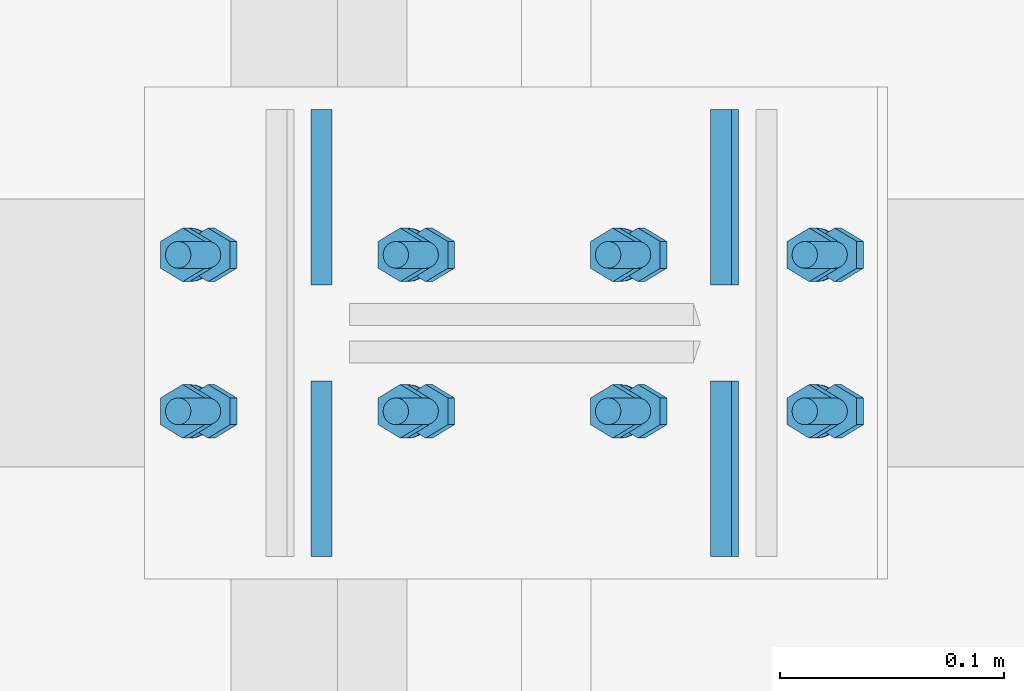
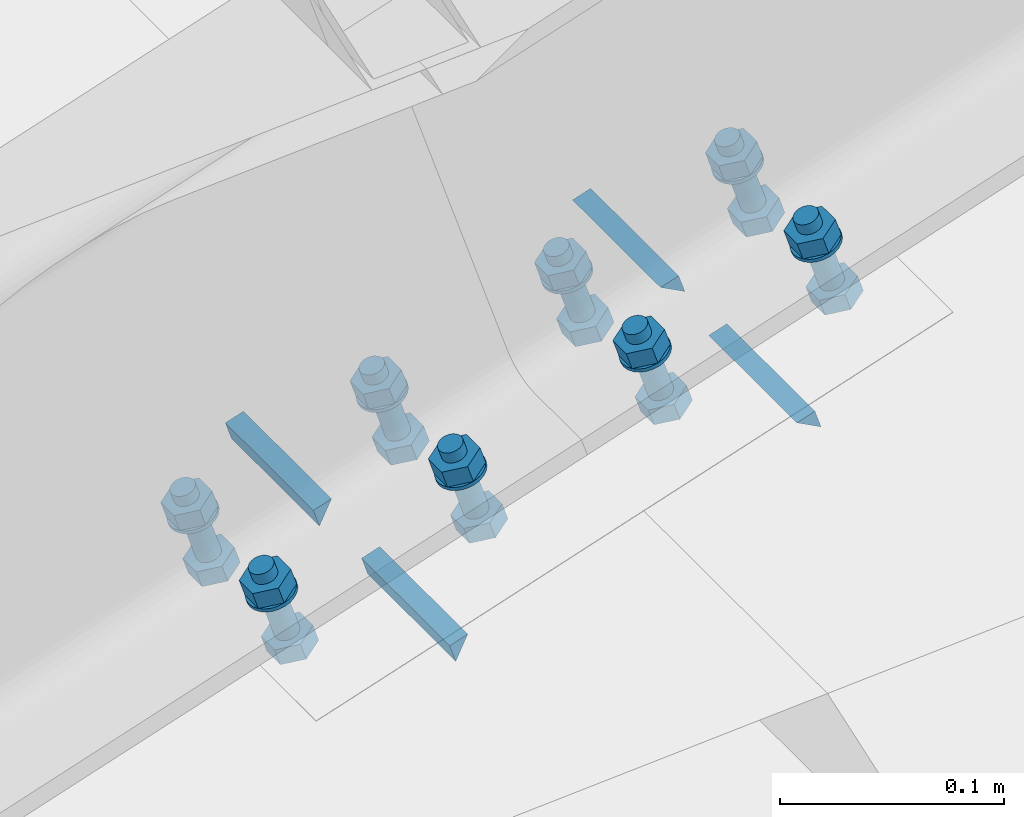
# One storey, part 28 of 53: 32 mechanical fasteners, 8 fasteners.
"""IFC4 building model written with IfcOpenShell, lengths in metres."""

from ifc_helpers import new_model, si_unit, frame, origin_with_axes, place, context, project, spatial, polyline, outline, extrude, type_object, element, save


model = new_model("IFC4")

# Units and contexts
model_context = context("Model", 3, precision=1e-05, world=origin_with_axes())
ifc_project = project(units=[si_unit("LENGTHUNIT", "METRE"), si_unit("AREAUNIT", "SQUARE_METRE"), si_unit("VOLUMEUNIT", "CUBIC_METRE"), si_unit("MASSUNIT", "GRAM", prefix="KILO"), si_unit("TIMEUNIT", "SECOND"), si_unit("PLANEANGLEUNIT", "RADIAN"), si_unit("SOLIDANGLEUNIT", "STERADIAN"), si_unit("THERMODYNAMICTEMPERATUREUNIT", "DEGREE_CELSIUS")], contexts=[model_context])

# Site, building, storey
placement_1 = place(None, origin_with_axes())
site = spatial("IfcSite", under=ifc_project, at=placement_1, Name="Italia", CompositionType="ELEMENT")
building = spatial("IfcBuilding", under=site, at=placement_1, Name="Capannone", CompositionType="ELEMENT")
storey_placement = place(None, frame((0.0, 0.0, 5.550000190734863), z_axis=(0.0, 0.0, 1.0), x_axis=(1.0, 0.0, 0.0)))
storey = spatial("IfcBuildingStorey", under=building, at=storey_placement, Name="Storey 1", CompositionType="ELEMENT", Elevation=5.550000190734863)

# Fasteners
fastener_type_1 = type_object("IfcFastenerType", Name="Collegamenti 0101_0001 0103_0003 0105_0005 0107_0007 0109_0009 0111_0011", PredefinedType="WELD")
placement_2 = place(placement_1, origin_with_axes())
fastener_1_placement = place(placement_2, origin_with_axes())
element("IfcFastener", 1, at=fastener_1_placement, inside=storey, type_object=fastener_type_1, Name="Collegamenti 0101_0001 0103_0003 0105_0005 0107_0007 0109_0009 0111_0011", context=model_context, shape_type="SweptSolid", body=[
    extrude(outline(polyline([(0.0, 0.0), (-0.00619942, -0.0127454), (-0.00937507, -0.00308037), (0.0, 0.0)])), frame((-0.0846885, 6.10005, 5.50644), z_axis=(0.0, -1.0, 0.0), x_axis=(1.0, 0.0, 0.0)), (0.0, 0.0, 1.0), 0.0785999),
])
fastener_type_2 = type_object("IfcFastenerType", Name="Collegamenti 0101_0001 0103_0003 0105_0005 0107_0007 0109_0009 0111_0011", PredefinedType="WELD")
fastener_2_placement = place(placement_2, origin_with_axes())
element("IfcFastener", 2, at=fastener_2_placement, inside=storey, type_object=fastener_type_2, Name="Collegamenti 0101_0001 0103_0003 0105_0005 0107_0007 0109_0009 0111_0011", context=model_context, shape_type="SweptSolid", body=[
    extrude(outline(polyline([(0.0, 0.0), (-0.0125507, -0.00658464), (-0.00937507, 0.00308037), (0.0, 0.0)])), frame((0.0846564, 6.02145, 5.56208), z_axis=(0.0, 1.0, 0.0), x_axis=(-1.0, 0.0, 0.0)), (0.0, 0.0, 1.0), 0.0785999),
])
fastener_type_3 = type_object("IfcFastenerType", Name="Collegamenti 0101_0001 0103_0003 0105_0005 0107_0007 0109_0009 0111_0011", PredefinedType="WELD")
fastener_3_placement = place(placement_2, origin_with_axes())
element("IfcFastener", 3, at=fastener_3_placement, inside=storey, type_object=fastener_type_3, Name="Collegamenti 0101_0001 0103_0003 0105_0005 0107_0007 0109_0009 0111_0011", context=model_context, shape_type="SweptSolid", body=[
    extrude(outline(polyline([(0.0, 0.0), (-0.0125507, -0.00658464), (-0.00937507, 0.00308037), (0.0, 0.0)])), frame((0.0846564, 5.89995, 5.56208), z_axis=(0.0, 1.0, 0.0), x_axis=(-1.0, 0.0, 0.0)), (0.0, 0.0, 1.0), 0.0785999),
])
fastener_type_4 = type_object("IfcFastenerType", Name="Collegamenti 0101_0001 0103_0003 0105_0005 0107_0007 0109_0009 0111_0011", PredefinedType="WELD")
fastener_4_placement = place(placement_2, origin_with_axes())
element("IfcFastener", 4, at=fastener_4_placement, inside=storey, type_object=fastener_type_4, Name="Collegamenti 0101_0001 0103_0003 0105_0005 0107_0007 0109_0009 0111_0011", context=model_context, shape_type="SweptSolid", body=[
    extrude(outline(polyline([(0.0, 0.0), (-0.00619942, -0.0127454), (-0.00937507, -0.00308037), (0.0, 0.0)])), frame((-0.0846885, 5.97855, 5.50644), z_axis=(0.0, -1.0, 0.0), x_axis=(1.0, 0.0, 0.0)), (0.0, 0.0, 1.0), 0.0785999),
])
fastener_type_5 = type_object("IfcFastenerType", Name="Collegamenti 0101_0001 0103_0003 0105_0005 0107_0007 0109_0009 0111_0011", PredefinedType="WELD")
fastener_5_placement = place(placement_2, origin_with_axes())
element("IfcFastener", 5, at=fastener_5_placement, inside=storey, type_object=fastener_type_5, Name="Collegamenti 0101_0001 0103_0003 0105_0005 0107_0007 0109_0009 0111_0011", context=model_context, shape_type="SweptSolid", body=[
    extrude(outline(polyline([(0.0, 0.0), (-0.00619942, -0.0127454), (-0.00937507, -0.00308037), (0.0, 0.0)])), frame((-0.0846885, 6.10005, 5.50644), z_axis=(0.0, -1.0, 0.0), x_axis=(1.0, 0.0, 0.0)), (0.0, 0.0, 1.0), 0.0785999),
])
fastener_type_6 = type_object("IfcFastenerType", Name="Collegamenti 0101_0001 0103_0003 0105_0005 0107_0007 0109_0009 0111_0011", PredefinedType="WELD")
fastener_6_placement = place(placement_2, origin_with_axes())
element("IfcFastener", 6, at=fastener_6_placement, inside=storey, type_object=fastener_type_6, Name="Collegamenti 0101_0001 0103_0003 0105_0005 0107_0007 0109_0009 0111_0011", context=model_context, shape_type="SweptSolid", body=[
    extrude(outline(polyline([(0.0, 0.0), (-0.0125507, -0.00658464), (-0.00937507, 0.00308037), (0.0, 0.0)])), frame((0.0846564, 6.02145, 5.56208), z_axis=(0.0, 1.0, 0.0), x_axis=(-1.0, 0.0, 0.0)), (0.0, 0.0, 1.0), 0.0785999),
])
fastener_type_7 = type_object("IfcFastenerType", Name="Collegamenti 0101_0001 0103_0003 0105_0005 0107_0007 0109_0009 0111_0011", PredefinedType="WELD")
fastener_7_placement = place(placement_2, origin_with_axes())
element("IfcFastener", 7, at=fastener_7_placement, inside=storey, type_object=fastener_type_7, Name="Collegamenti 0101_0001 0103_0003 0105_0005 0107_0007 0109_0009 0111_0011", context=model_context, shape_type="SweptSolid", body=[
    extrude(outline(polyline([(0.0, 0.0), (-0.0125507, -0.00658464), (-0.00937507, 0.00308037), (0.0, 0.0)])), frame((0.0846564, 5.89995, 5.56208), z_axis=(0.0, 1.0, 0.0), x_axis=(-1.0, 0.0, 0.0)), (0.0, 0.0, 1.0), 0.0785999),
])
fastener_type_8 = type_object("IfcFastenerType", Name="Collegamenti 0101_0001 0103_0003 0105_0005 0107_0007 0109_0009 0111_0011", PredefinedType="WELD")
fastener_8_placement = place(placement_2, origin_with_axes())
element("IfcFastener", 8, at=fastener_8_placement, inside=storey, type_object=fastener_type_8, Name="Collegamenti 0101_0001 0103_0003 0105_0005 0107_0007 0109_0009 0111_0011", context=model_context, shape_type="SweptSolid", body=[
    extrude(outline(polyline([(0.0, 0.0), (-0.00619942, -0.0127454), (-0.00937507, -0.00308037), (0.0, 0.0)])), frame((-0.0846885, 5.97855, 5.50644), z_axis=(0.0, -1.0, 0.0), x_axis=(1.0, 0.0, 0.0)), (0.0, 0.0, 1.0), 0.0785999),
])

# Mechanical fasteners
mechanical_fastener_type_1 = type_object("IfcMechanicalFastenerType", Name="Collegamenti 0101_0001 0103_0003 0105_0005 0107_0007 0109_0009 0111_0011", PredefinedType="BOLT")
mechanical_fastener_1_placement = place(placement_2, origin_with_axes())
element("IfcMechanicalFastener", 9, at=mechanical_fastener_1_placement, inside=storey, type_object=mechanical_fastener_type_1, Name="Collegamenti 0101_0001 0103_0003 0105_0005 0107_0007 0109_0009 0111_0011", NominalDiameter=0.012, context=model_context, shape_type="SweptSolid", body=[
    extrude(outline(polyline([(0.0, 0.0), (0.0120001, 0.0), (0.0180001, -0.0103923), (0.0120001, -0.0207845), (0.0, -0.0207845), (-0.00600004, -0.0103923), (0.0, 0.0)])), frame((-0.130325, 6.029, 5.49139), z_axis=(0.312164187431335, 0.0, -0.95002818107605), x_axis=(0.0, 1.0, 0.0)), (0.0, 0.0, 1.0), 0.0095997),
])
mechanical_fastener_type_2 = type_object("IfcMechanicalFastenerType", Name="Collegamenti 0101_0001 0103_0003 0105_0005 0107_0007 0109_0009 0111_0011", PredefinedType="BOLT")
mechanical_fastener_2_placement = place(placement_2, origin_with_axes())
element("IfcMechanicalFastener", 10, at=mechanical_fastener_2_placement, inside=storey, type_object=mechanical_fastener_type_2, Name="Collegamenti 0101_0001 0103_0003 0105_0005 0107_0007 0109_0009 0111_0011", NominalDiameter=0.012, context=model_context, shape_type="SweptSolid", body=[
    extrude(outline(polyline([(0.0, 0.0), (-0.000204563, -0.00155306), (-0.000803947, -0.00300002), (-0.00175762, -0.00424254), (-0.00300026, -0.00519633), (-0.00444698, -0.0057956), (-0.00600004, -0.00600004), (-0.0075531, -0.0057956), (-0.00899982, -0.00519633), (-0.0102425, -0.00424254), (-0.0111961, -0.00300002), (-0.0117955, -0.00155306), (-0.0120001, 0.0), (-0.0117955, 0.00155294), (-0.0111961, 0.00300002), (-0.0102425, 0.00424254), (-0.00899982, 0.00519621), (-0.0075531, 0.00579548), (-0.00600004, 0.00600004), (-0.00444698, 0.00579548), (-0.00300026, 0.00519621), (-0.00175762, 0.00424254), (-0.000803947, 0.00300002), (-0.000204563, 0.00155294), (0.0, 0.0)])), frame((-0.153558, 6.041, 5.52881), z_axis=(0.312153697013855, 0.0, -0.950031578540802), x_axis=(0.0, 1.0, 0.0)), (0.0, 0.0, 1.0), 0.0428),
])
mechanical_fastener_type_3 = type_object("IfcMechanicalFastenerType", Name="Collegamenti 0101_0001 0103_0003 0105_0005 0107_0007 0109_0009 0111_0011", PredefinedType="BOLT")
mechanical_fastener_3_placement = place(placement_2, origin_with_axes())
element("IfcMechanicalFastener", 11, at=mechanical_fastener_3_placement, inside=storey, type_object=mechanical_fastener_type_3, Name="Collegamenti 0101_0001 0103_0003 0105_0005 0107_0007 0109_0009 0111_0011", NominalDiameter=0.012, context=model_context, shape_type="SweptSolid", body=[
    extrude(outline(polyline([(0.0, 0.0), (0.0120001, 0.0), (0.0180001, -0.0103924), (0.0120001, -0.0207846), (0.0, -0.0207846), (-0.00600004, -0.0103924), (0.0, 0.0)])), frame((-0.141687, 6.029, 5.52597), z_axis=(0.312164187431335, 0.0, -0.95002818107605), x_axis=(0.0, 1.0, 0.0)), (0.0, 0.0, 1.0), 0.0095997),
])
mechanical_fastener_type_4 = type_object("IfcMechanicalFastenerType", Name="Collegamenti 0101_0001 0103_0003 0105_0005 0107_0007 0109_0009 0111_0011", PredefinedType="BOLT")
mechanical_fastener_4_placement = place(placement_2, origin_with_axes())
element("IfcMechanicalFastener", 12, at=mechanical_fastener_4_placement, inside=storey, type_object=mechanical_fastener_type_4, Name="Collegamenti 0101_0001 0103_0003 0105_0005 0107_0007 0109_0009 0111_0011", NominalDiameter=0.024, context=model_context, shape_type="SweptSolid", body=[
    extrude(outline(polyline([(0.0, 0.0), (-0.000409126, -0.00310576), (-0.00160789, -0.00599992), (-0.00351477, -0.0084852), (-0.00600004, -0.0103922), (-0.00889444, -0.0115911), (-0.0120001, -0.0119998), (-0.0151057, -0.0115911), (-0.0180001, -0.0103922), (-0.0204854, -0.0084852), (-0.0223923, -0.00599992), (-0.023591, -0.00310576), (-0.0240002, 0.0), (-0.023591, 0.003106), (-0.0223923, 0.00600016), (-0.0204854, 0.00848532), (-0.0180001, 0.0103924), (-0.0151057, 0.0115913), (-0.0120001, 0.0120001), (-0.00889444, 0.0115913), (-0.00600004, 0.0103924), (-0.00351477, 0.00848532), (-0.00160789, 0.00600016), (-0.000409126, 0.003106), (0.0, 0.0)])), frame((-0.148563, 6.047, 5.51361), z_axis=(0.312059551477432, 0.0, -0.95006251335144), x_axis=(0.0, 1.0, 0.0)), (0.0, 0.0, 1.0), 0.00200058),
])
mechanical_fastener_type_5 = type_object("IfcMechanicalFastenerType", Name="Collegamenti 0101_0001 0103_0003 0105_0005 0107_0007 0109_0009 0111_0011", PredefinedType="BOLT")
mechanical_fastener_5_placement = place(placement_2, origin_with_axes())
element("IfcMechanicalFastener", 13, at=mechanical_fastener_5_placement, inside=storey, type_object=mechanical_fastener_type_5, Name="Collegamenti 0101_0001 0103_0003 0105_0005 0107_0007 0109_0009 0111_0011", NominalDiameter=0.012, context=model_context, shape_type="SweptSolid", body=[
    extrude(outline(polyline([(0.0, 0.0), (0.0120001, 0.0), (0.0180001, -0.0103923), (0.0120001, -0.0207845), (0.0, -0.0207845), (-0.00600004, -0.0103923), (0.0, 0.0)])), frame((-0.130325, 5.959, 5.49139), z_axis=(0.312164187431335, 0.0, -0.95002818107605), x_axis=(0.0, 1.0, 0.0)), (0.0, 0.0, 1.0), 0.0095997),
])
mechanical_fastener_type_6 = type_object("IfcMechanicalFastenerType", Name="Collegamenti 0101_0001 0103_0003 0105_0005 0107_0007 0109_0009 0111_0011", PredefinedType="BOLT")
mechanical_fastener_6_placement = place(placement_2, origin_with_axes())
element("IfcMechanicalFastener", 14, at=mechanical_fastener_6_placement, inside=storey, type_object=mechanical_fastener_type_6, Name="Collegamenti 0101_0001 0103_0003 0105_0005 0107_0007 0109_0009 0111_0011", NominalDiameter=0.012, context=model_context, shape_type="SweptSolid", body=[
    extrude(outline(polyline([(0.0, 0.0), (-0.000204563, -0.00155306), (-0.000803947, -0.00300002), (-0.00175762, -0.00424254), (-0.00300026, -0.00519633), (-0.00444698, -0.0057956), (-0.00600004, -0.00600004), (-0.0075531, -0.0057956), (-0.00899982, -0.00519633), (-0.0102425, -0.00424254), (-0.0111961, -0.00300002), (-0.0117955, -0.00155306), (-0.0120001, 0.0), (-0.0117955, 0.00155294), (-0.0111961, 0.00300002), (-0.0102425, 0.00424254), (-0.00899982, 0.00519621), (-0.0075531, 0.00579548), (-0.00600004, 0.00600004), (-0.00444698, 0.00579548), (-0.00300026, 0.00519621), (-0.00175762, 0.00424254), (-0.000803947, 0.00300002), (-0.000204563, 0.00155294), (0.0, 0.0)])), frame((-0.153558, 5.971, 5.52881), z_axis=(0.312153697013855, 0.0, -0.950031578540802), x_axis=(0.0, 1.0, 0.0)), (0.0, 0.0, 1.0), 0.0428),
])
mechanical_fastener_type_7 = type_object("IfcMechanicalFastenerType", Name="Collegamenti 0101_0001 0103_0003 0105_0005 0107_0007 0109_0009 0111_0011", PredefinedType="BOLT")
mechanical_fastener_7_placement = place(placement_2, origin_with_axes())
element("IfcMechanicalFastener", 15, at=mechanical_fastener_7_placement, inside=storey, type_object=mechanical_fastener_type_7, Name="Collegamenti 0101_0001 0103_0003 0105_0005 0107_0007 0109_0009 0111_0011", NominalDiameter=0.012, context=model_context, shape_type="SweptSolid", body=[
    extrude(outline(polyline([(0.0, 0.0), (0.0120001, 0.0), (0.0180001, -0.0103924), (0.0120001, -0.0207846), (0.0, -0.0207846), (-0.00600004, -0.0103924), (0.0, 0.0)])), frame((-0.141687, 5.959, 5.52597), z_axis=(0.312164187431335, 0.0, -0.95002818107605), x_axis=(0.0, 1.0, 0.0)), (0.0, 0.0, 1.0), 0.0095997),
])
mechanical_fastener_type_8 = type_object("IfcMechanicalFastenerType", Name="Collegamenti 0101_0001 0103_0003 0105_0005 0107_0007 0109_0009 0111_0011", PredefinedType="BOLT")
mechanical_fastener_8_placement = place(placement_2, origin_with_axes())
element("IfcMechanicalFastener", 16, at=mechanical_fastener_8_placement, inside=storey, type_object=mechanical_fastener_type_8, Name="Collegamenti 0101_0001 0103_0003 0105_0005 0107_0007 0109_0009 0111_0011", NominalDiameter=0.024, context=model_context, shape_type="SweptSolid", body=[
    extrude(outline(polyline([(0.0, 0.0), (-0.000409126, -0.00310576), (-0.00160789, -0.00599992), (-0.00351477, -0.0084852), (-0.00600004, -0.0103922), (-0.00889444, -0.0115911), (-0.0120001, -0.0119998), (-0.0151057, -0.0115911), (-0.0180001, -0.0103922), (-0.0204854, -0.0084852), (-0.0223923, -0.00599992), (-0.023591, -0.00310576), (-0.0240002, 0.0), (-0.023591, 0.003106), (-0.0223923, 0.00600016), (-0.0204854, 0.00848532), (-0.0180001, 0.0103924), (-0.0151057, 0.0115913), (-0.0120001, 0.0120001), (-0.00889444, 0.0115913), (-0.00600004, 0.0103924), (-0.00351477, 0.00848532), (-0.00160789, 0.00600016), (-0.000409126, 0.003106), (0.0, 0.0)])), frame((-0.148563, 5.977, 5.51361), z_axis=(0.312059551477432, 0.0, -0.95006251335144), x_axis=(0.0, 1.0, 0.0)), (0.0, 0.0, 1.0), 0.00200058),
])
mechanical_fastener_type_9 = type_object("IfcMechanicalFastenerType", Name="Collegamenti 0101_0001 0103_0003 0105_0005 0107_0007 0109_0009 0111_0011", PredefinedType="BOLT")
mechanical_fastener_9_placement = place(placement_2, origin_with_axes())
element("IfcMechanicalFastener", 17, at=mechanical_fastener_9_placement, inside=storey, type_object=mechanical_fastener_type_9, Name="Collegamenti 0101_0001 0103_0003 0105_0005 0107_0007 0109_0009 0111_0011", NominalDiameter=0.012, context=model_context, shape_type="SweptSolid", body=[
    extrude(outline(polyline([(0.0, 0.0), (0.0120001, 0.0), (0.0180001, -0.0103924), (0.0120001, -0.0207846), (0.0, -0.0207846), (-0.00600004, -0.0103924), (0.0, 0.0)])), frame((0.0620569, 6.029, 5.5546), z_axis=(0.312162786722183, 0.0, -0.950028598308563), x_axis=(0.0, 1.0, 0.0)), (0.0, 0.0, 1.0), 0.0095997),
])
mechanical_fastener_type_10 = type_object("IfcMechanicalFastenerType", Name="Collegamenti 0101_0001 0103_0003 0105_0005 0107_0007 0109_0009 0111_0011", PredefinedType="BOLT")
mechanical_fastener_10_placement = place(placement_2, origin_with_axes())
element("IfcMechanicalFastener", 18, at=mechanical_fastener_10_placement, inside=storey, type_object=mechanical_fastener_type_10, Name="Collegamenti 0101_0001 0103_0003 0105_0005 0107_0007 0109_0009 0111_0011", NominalDiameter=0.012, context=model_context, shape_type="SweptSolid", body=[
    extrude(outline(polyline([(0.0, 0.0), (-0.000204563, -0.00155294), (-0.000803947, -0.0029999), (-0.00175762, -0.00424266), (-0.00300026, -0.00519621), (-0.00444698, -0.00579548), (-0.00600004, -0.00600004), (-0.0075531, -0.00579548), (-0.00899982, -0.00519621), (-0.0102425, -0.00424266), (-0.0111961, -0.0029999), (-0.0117955, -0.00155294), (-0.0120001, 0.0), (-0.0117955, 0.00155306), (-0.0111961, 0.00300002), (-0.0102425, 0.00424254), (-0.00899982, 0.00519621), (-0.0075531, 0.0057956), (-0.00600004, 0.00600004), (-0.00444698, 0.0057956), (-0.00300026, 0.00519621), (-0.00175762, 0.00424254), (-0.000803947, 0.00300002), (-0.000204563, 0.00155306), (0.0, 0.0)])), frame((0.0388237, 6.041, 5.59202), z_axis=(0.312154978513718, 0.0, -0.950031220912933), x_axis=(0.0, 1.0, 0.0)), (0.0, 0.0, 1.0), 0.0428),
])
mechanical_fastener_type_11 = type_object("IfcMechanicalFastenerType", Name="Collegamenti 0101_0001 0103_0003 0105_0005 0107_0007 0109_0009 0111_0011", PredefinedType="BOLT")
mechanical_fastener_11_placement = place(placement_2, origin_with_axes())
element("IfcMechanicalFastener", 19, at=mechanical_fastener_11_placement, inside=storey, type_object=mechanical_fastener_type_11, Name="Collegamenti 0101_0001 0103_0003 0105_0005 0107_0007 0109_0009 0111_0011", NominalDiameter=0.012, context=model_context, shape_type="SweptSolid", body=[
    extrude(outline(polyline([(0.0, 0.0), (0.0120001, 0.0), (0.0180001, -0.0103922), (0.0120001, -0.0207845), (0.0, -0.0207845), (-0.00600004, -0.0103922), (0.0, 0.0)])), frame((0.0506946, 6.029, 5.58918), z_axis=(0.312163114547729, 0.0, -0.950028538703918), x_axis=(0.0, 1.0, 0.0)), (0.0, 0.0, 1.0), 0.0095997),
])
mechanical_fastener_type_12 = type_object("IfcMechanicalFastenerType", Name="Collegamenti 0101_0001 0103_0003 0105_0005 0107_0007 0109_0009 0111_0011", PredefinedType="BOLT")
mechanical_fastener_12_placement = place(placement_2, origin_with_axes())
element("IfcMechanicalFastener", 20, at=mechanical_fastener_12_placement, inside=storey, type_object=mechanical_fastener_type_12, Name="Collegamenti 0101_0001 0103_0003 0105_0005 0107_0007 0109_0009 0111_0011", NominalDiameter=0.024, context=model_context, shape_type="SweptSolid", body=[
    extrude(outline(polyline([(0.0, 0.0), (-0.000409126, -0.003106), (-0.00160789, -0.00600004), (-0.00351477, -0.00848544), (-0.00600004, -0.0103923), (-0.00889444, -0.0115912), (-0.0120001, -0.0120001), (-0.0151057, -0.0115912), (-0.0180001, -0.0103923), (-0.0204854, -0.00848544), (-0.0223923, -0.00600004), (-0.023591, -0.003106), (-0.0240002, 0.0), (-0.023591, 0.00310588), (-0.0223923, 0.0059998), (-0.0204854, 0.0084852), (-0.0180001, 0.0103922), (-0.0151057, 0.011591), (-0.0120001, 0.012), (-0.00889444, 0.011591), (-0.00600004, 0.0103922), (-0.00351477, 0.0084852), (-0.00160789, 0.0059998), (-0.000409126, 0.00310588), (0.0, 0.0)])), frame((0.0438182, 6.047, 5.57682), z_axis=(0.312204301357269, 0.0, -0.950015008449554), x_axis=(0.0, 1.0, 0.0)), (0.0, 0.0, 1.0), 0.00199967),
])
mechanical_fastener_type_13 = type_object("IfcMechanicalFastenerType", Name="Collegamenti 0101_0001 0103_0003 0105_0005 0107_0007 0109_0009 0111_0011", PredefinedType="BOLT")
mechanical_fastener_13_placement = place(placement_2, origin_with_axes())
element("IfcMechanicalFastener", 21, at=mechanical_fastener_13_placement, inside=storey, type_object=mechanical_fastener_type_13, Name="Collegamenti 0101_0001 0103_0003 0105_0005 0107_0007 0109_0009 0111_0011", NominalDiameter=0.012, context=model_context, shape_type="SweptSolid", body=[
    extrude(outline(polyline([(0.0, 0.0), (0.0120001, 0.0), (0.0180001, -0.0103924), (0.0120001, -0.0207846), (0.0, -0.0207846), (-0.00600004, -0.0103924), (0.0, 0.0)])), frame((0.0620569, 5.959, 5.5546), z_axis=(0.312162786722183, 0.0, -0.950028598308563), x_axis=(0.0, 1.0, 0.0)), (0.0, 0.0, 1.0), 0.0095997),
])
mechanical_fastener_type_14 = type_object("IfcMechanicalFastenerType", Name="Collegamenti 0101_0001 0103_0003 0105_0005 0107_0007 0109_0009 0111_0011", PredefinedType="BOLT")
mechanical_fastener_14_placement = place(placement_2, origin_with_axes())
element("IfcMechanicalFastener", 22, at=mechanical_fastener_14_placement, inside=storey, type_object=mechanical_fastener_type_14, Name="Collegamenti 0101_0001 0103_0003 0105_0005 0107_0007 0109_0009 0111_0011", NominalDiameter=0.012, context=model_context, shape_type="SweptSolid", body=[
    extrude(outline(polyline([(0.0, 0.0), (-0.000204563, -0.00155294), (-0.000803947, -0.0029999), (-0.00175762, -0.00424266), (-0.00300026, -0.00519621), (-0.00444698, -0.00579548), (-0.00600004, -0.00600004), (-0.0075531, -0.00579548), (-0.00899982, -0.00519621), (-0.0102425, -0.00424266), (-0.0111961, -0.0029999), (-0.0117955, -0.00155294), (-0.0120001, 0.0), (-0.0117955, 0.00155306), (-0.0111961, 0.00300002), (-0.0102425, 0.00424254), (-0.00899982, 0.00519621), (-0.0075531, 0.0057956), (-0.00600004, 0.00600004), (-0.00444698, 0.0057956), (-0.00300026, 0.00519621), (-0.00175762, 0.00424254), (-0.000803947, 0.00300002), (-0.000204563, 0.00155306), (0.0, 0.0)])), frame((0.0388237, 5.971, 5.59202), z_axis=(0.312154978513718, 0.0, -0.950031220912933), x_axis=(0.0, 1.0, 0.0)), (0.0, 0.0, 1.0), 0.0428),
])
mechanical_fastener_type_15 = type_object("IfcMechanicalFastenerType", Name="Collegamenti 0101_0001 0103_0003 0105_0005 0107_0007 0109_0009 0111_0011", PredefinedType="BOLT")
mechanical_fastener_15_placement = place(placement_2, origin_with_axes())
element("IfcMechanicalFastener", 23, at=mechanical_fastener_15_placement, inside=storey, type_object=mechanical_fastener_type_15, Name="Collegamenti 0101_0001 0103_0003 0105_0005 0107_0007 0109_0009 0111_0011", NominalDiameter=0.012, context=model_context, shape_type="SweptSolid", body=[
    extrude(outline(polyline([(0.0, 0.0), (0.0120001, 0.0), (0.0180001, -0.0103922), (0.0120001, -0.0207845), (0.0, -0.0207845), (-0.00600004, -0.0103922), (0.0, 0.0)])), frame((0.0506946, 5.959, 5.58918), z_axis=(0.312163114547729, 0.0, -0.950028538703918), x_axis=(0.0, 1.0, 0.0)), (0.0, 0.0, 1.0), 0.0095997),
])
mechanical_fastener_type_16 = type_object("IfcMechanicalFastenerType", Name="Collegamenti 0101_0001 0103_0003 0105_0005 0107_0007 0109_0009 0111_0011", PredefinedType="BOLT")
mechanical_fastener_16_placement = place(placement_2, origin_with_axes())
element("IfcMechanicalFastener", 24, at=mechanical_fastener_16_placement, inside=storey, type_object=mechanical_fastener_type_16, Name="Collegamenti 0101_0001 0103_0003 0105_0005 0107_0007 0109_0009 0111_0011", NominalDiameter=0.024, context=model_context, shape_type="SweptSolid", body=[
    extrude(outline(polyline([(0.0, 0.0), (-0.000409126, -0.003106), (-0.00160789, -0.00600004), (-0.00351477, -0.00848544), (-0.00600004, -0.0103923), (-0.00889444, -0.0115912), (-0.0120001, -0.0120001), (-0.0151057, -0.0115912), (-0.0180001, -0.0103923), (-0.0204854, -0.00848544), (-0.0223923, -0.00600004), (-0.023591, -0.003106), (-0.0240002, 0.0), (-0.023591, 0.00310588), (-0.0223923, 0.0059998), (-0.0204854, 0.0084852), (-0.0180001, 0.0103922), (-0.0151057, 0.011591), (-0.0120001, 0.012), (-0.00889444, 0.011591), (-0.00600004, 0.0103922), (-0.00351477, 0.0084852), (-0.00160789, 0.0059998), (-0.000409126, 0.00310588), (0.0, 0.0)])), frame((0.0438182, 5.977, 5.57682), z_axis=(0.312204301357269, 0.0, -0.950015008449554), x_axis=(0.0, 1.0, 0.0)), (0.0, 0.0, 1.0), 0.00199967),
])
mechanical_fastener_type_17 = type_object("IfcMechanicalFastenerType", Name="Collegamenti 0101_0001 0103_0003 0105_0005 0107_0007 0109_0009 0111_0011", PredefinedType="BOLT")
mechanical_fastener_17_placement = place(placement_2, origin_with_axes())
element("IfcMechanicalFastener", 25, at=mechanical_fastener_17_placement, inside=storey, type_object=mechanical_fastener_type_17, Name="Collegamenti 0101_0001 0103_0003 0105_0005 0107_0007 0109_0009 0111_0011", NominalDiameter=0.012, context=model_context, shape_type="SweptSolid", body=[
    extrude(outline(polyline([(0.0, 0.0), (0.0120001, 0.0), (0.0180001, -0.0103922), (0.0120001, -0.0207846), (0.0, -0.0207846), (-0.00600004, -0.0103922), (0.0, 0.0)])), frame((-0.0329462, 6.029, 5.52339), z_axis=(0.312148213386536, 0.0, -0.95003342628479), x_axis=(0.0, 1.0, 0.0)), (0.0, 0.0, 1.0), 0.00960015),
])
mechanical_fastener_type_18 = type_object("IfcMechanicalFastenerType", Name="Collegamenti 0101_0001 0103_0003 0105_0005 0107_0007 0109_0009 0111_0011", PredefinedType="BOLT")
mechanical_fastener_18_placement = place(placement_2, origin_with_axes())
element("IfcMechanicalFastener", 26, at=mechanical_fastener_18_placement, inside=storey, type_object=mechanical_fastener_type_18, Name="Collegamenti 0101_0001 0103_0003 0105_0005 0107_0007 0109_0009 0111_0011", NominalDiameter=0.012, context=model_context, shape_type="SweptSolid", body=[
    extrude(outline(polyline([(0.0, 0.0), (-0.000204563, -0.00155294), (-0.000803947, -0.00300002), (-0.00175762, -0.00424266), (-0.00300026, -0.00519621), (-0.00444698, -0.0057956), (-0.00600004, -0.00600004), (-0.0075531, -0.0057956), (-0.00899982, -0.00519621), (-0.0102425, -0.00424266), (-0.0111961, -0.00300002), (-0.0117955, -0.00155294), (-0.0120001, 0.0), (-0.0117955, 0.00155306), (-0.0111961, 0.00300002), (-0.0102425, 0.00424254), (-0.00899982, 0.00519609), (-0.0075531, 0.0057956), (-0.00600004, 0.00600004), (-0.00444698, 0.0057956), (-0.00300026, 0.00519609), (-0.00175762, 0.00424254), (-0.000803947, 0.00300002), (-0.000204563, 0.00155306), (0.0, 0.0)])), frame((-0.0561794, 6.041, 5.5608), z_axis=(0.312153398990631, 0.0, -0.950031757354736), x_axis=(0.0, 1.0, 0.0)), (0.0, 0.0, 1.0), 0.0428),
])
mechanical_fastener_type_19 = type_object("IfcMechanicalFastenerType", Name="Collegamenti 0101_0001 0103_0003 0105_0005 0107_0007 0109_0009 0111_0011", PredefinedType="BOLT")
mechanical_fastener_19_placement = place(placement_2, origin_with_axes())
element("IfcMechanicalFastener", 27, at=mechanical_fastener_19_placement, inside=storey, type_object=mechanical_fastener_type_19, Name="Collegamenti 0101_0001 0103_0003 0105_0005 0107_0007 0109_0009 0111_0011", NominalDiameter=0.012, context=model_context, shape_type="SweptSolid", body=[
    extrude(outline(polyline([(0.0, 0.0), (0.0120001, 0.0), (0.0180001, -0.0103922), (0.0120001, -0.0207845), (0.0, -0.0207845), (-0.00600004, -0.0103922), (0.0, 0.0)])), frame((-0.0443086, 6.029, 5.55797), z_axis=(0.31214839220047, 0.0, -0.9500333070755), x_axis=(0.0, 1.0, 0.0)), (0.0, 0.0, 1.0), 0.00960015),
])
mechanical_fastener_type_20 = type_object("IfcMechanicalFastenerType", Name="Collegamenti 0101_0001 0103_0003 0105_0005 0107_0007 0109_0009 0111_0011", PredefinedType="BOLT")
mechanical_fastener_20_placement = place(placement_2, origin_with_axes())
element("IfcMechanicalFastener", 28, at=mechanical_fastener_20_placement, inside=storey, type_object=mechanical_fastener_type_20, Name="Collegamenti 0101_0001 0103_0003 0105_0005 0107_0007 0109_0009 0111_0011", NominalDiameter=0.024, context=model_context, shape_type="SweptSolid", body=[
    extrude(outline(polyline([(0.0, 0.0), (-0.000409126, -0.00310588), (-0.00160789, -0.00600004), (-0.00351477, -0.00848532), (-0.00600004, -0.0103923), (-0.00889444, -0.0115912), (-0.0120001, -0.012), (-0.0151057, -0.0115912), (-0.0180001, -0.0103923), (-0.0204854, -0.00848532), (-0.0223923, -0.00600004), (-0.023591, -0.00310588), (-0.0240002, 0.0), (-0.023591, 0.00310588), (-0.0223923, 0.00600004), (-0.0204854, 0.0084852), (-0.0180001, 0.0103923), (-0.0151057, 0.0115912), (-0.0120001, 0.012), (-0.00889444, 0.0115912), (-0.00600004, 0.0103923), (-0.00351477, 0.0084852), (-0.00160789, 0.00600004), (-0.000409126, 0.00310588), (0.0, 0.0)])), frame((-0.051185, 6.047, 5.5456), z_axis=(0.312062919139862, 0.0, -0.950061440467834), x_axis=(0.0, 1.0, 0.0)), (0.0, 0.0, 1.0), 0.00200058),
])
mechanical_fastener_type_21 = type_object("IfcMechanicalFastenerType", Name="Collegamenti 0101_0001 0103_0003 0105_0005 0107_0007 0109_0009 0111_0011", PredefinedType="BOLT")
mechanical_fastener_21_placement = place(placement_2, origin_with_axes())
element("IfcMechanicalFastener", 29, at=mechanical_fastener_21_placement, inside=storey, type_object=mechanical_fastener_type_21, Name="Collegamenti 0101_0001 0103_0003 0105_0005 0107_0007 0109_0009 0111_0011", NominalDiameter=0.012, context=model_context, shape_type="SweptSolid", body=[
    extrude(outline(polyline([(0.0, 0.0), (0.0120001, 0.0), (0.0180001, -0.0103922), (0.0120001, -0.0207846), (0.0, -0.0207846), (-0.00600004, -0.0103922), (0.0, 0.0)])), frame((-0.0329462, 5.959, 5.52339), z_axis=(0.312148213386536, 0.0, -0.95003342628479), x_axis=(0.0, 1.0, 0.0)), (0.0, 0.0, 1.0), 0.00960015),
])
mechanical_fastener_type_22 = type_object("IfcMechanicalFastenerType", Name="Collegamenti 0101_0001 0103_0003 0105_0005 0107_0007 0109_0009 0111_0011", PredefinedType="BOLT")
mechanical_fastener_22_placement = place(placement_2, origin_with_axes())
element("IfcMechanicalFastener", 30, at=mechanical_fastener_22_placement, inside=storey, type_object=mechanical_fastener_type_22, Name="Collegamenti 0101_0001 0103_0003 0105_0005 0107_0007 0109_0009 0111_0011", NominalDiameter=0.012, context=model_context, shape_type="SweptSolid", body=[
    extrude(outline(polyline([(0.0, 0.0), (-0.000204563, -0.00155294), (-0.000803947, -0.00300002), (-0.00175762, -0.00424266), (-0.00300026, -0.00519621), (-0.00444698, -0.0057956), (-0.00600004, -0.00600004), (-0.0075531, -0.0057956), (-0.00899982, -0.00519621), (-0.0102425, -0.00424266), (-0.0111961, -0.00300002), (-0.0117955, -0.00155294), (-0.0120001, 0.0), (-0.0117955, 0.00155306), (-0.0111961, 0.00300002), (-0.0102425, 0.00424254), (-0.00899982, 0.00519609), (-0.0075531, 0.0057956), (-0.00600004, 0.00600004), (-0.00444698, 0.0057956), (-0.00300026, 0.00519609), (-0.00175762, 0.00424254), (-0.000803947, 0.00300002), (-0.000204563, 0.00155306), (0.0, 0.0)])), frame((-0.0561794, 5.971, 5.5608), z_axis=(0.312153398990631, 0.0, -0.950031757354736), x_axis=(0.0, 1.0, 0.0)), (0.0, 0.0, 1.0), 0.0428),
])
mechanical_fastener_type_23 = type_object("IfcMechanicalFastenerType", Name="Collegamenti 0101_0001 0103_0003 0105_0005 0107_0007 0109_0009 0111_0011", PredefinedType="BOLT")
mechanical_fastener_23_placement = place(placement_2, origin_with_axes())
element("IfcMechanicalFastener", 31, at=mechanical_fastener_23_placement, inside=storey, type_object=mechanical_fastener_type_23, Name="Collegamenti 0101_0001 0103_0003 0105_0005 0107_0007 0109_0009 0111_0011", NominalDiameter=0.012, context=model_context, shape_type="SweptSolid", body=[
    extrude(outline(polyline([(0.0, 0.0), (0.0120001, 0.0), (0.0180001, -0.0103922), (0.0120001, -0.0207845), (0.0, -0.0207845), (-0.00600004, -0.0103922), (0.0, 0.0)])), frame((-0.0443086, 5.959, 5.55797), z_axis=(0.31214839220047, 0.0, -0.9500333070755), x_axis=(0.0, 1.0, 0.0)), (0.0, 0.0, 1.0), 0.00960015),
])
mechanical_fastener_type_24 = type_object("IfcMechanicalFastenerType", Name="Collegamenti 0101_0001 0103_0003 0105_0005 0107_0007 0109_0009 0111_0011", PredefinedType="BOLT")
mechanical_fastener_24_placement = place(placement_2, origin_with_axes())
element("IfcMechanicalFastener", 32, at=mechanical_fastener_24_placement, inside=storey, type_object=mechanical_fastener_type_24, Name="Collegamenti 0101_0001 0103_0003 0105_0005 0107_0007 0109_0009 0111_0011", NominalDiameter=0.024, context=model_context, shape_type="SweptSolid", body=[
    extrude(outline(polyline([(0.0, 0.0), (-0.000409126, -0.00310588), (-0.00160789, -0.00600004), (-0.00351477, -0.00848532), (-0.00600004, -0.0103923), (-0.00889444, -0.0115912), (-0.0120001, -0.012), (-0.0151057, -0.0115912), (-0.0180001, -0.0103923), (-0.0204854, -0.00848532), (-0.0223923, -0.00600004), (-0.023591, -0.00310588), (-0.0240002, 0.0), (-0.023591, 0.00310588), (-0.0223923, 0.00600004), (-0.0204854, 0.0084852), (-0.0180001, 0.0103923), (-0.0151057, 0.0115912), (-0.0120001, 0.012), (-0.00889444, 0.0115912), (-0.00600004, 0.0103923), (-0.00351477, 0.0084852), (-0.00160789, 0.00600004), (-0.000409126, 0.00310588), (0.0, 0.0)])), frame((-0.051185, 5.977, 5.5456), z_axis=(0.312062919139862, 0.0, -0.950061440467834), x_axis=(0.0, 1.0, 0.0)), (0.0, 0.0, 1.0), 0.00200058),
])
mechanical_fastener_type_25 = type_object("IfcMechanicalFastenerType", Name="Collegamenti 0101_0001 0103_0003 0105_0005 0107_0007 0109_0009 0111_0011", PredefinedType="BOLT")
mechanical_fastener_25_placement = place(placement_2, origin_with_axes())
element("IfcMechanicalFastener", 33, at=mechanical_fastener_25_placement, inside=storey, type_object=mechanical_fastener_type_25, Name="Collegamenti 0101_0001 0103_0003 0105_0005 0107_0007 0109_0009 0111_0011", NominalDiameter=0.012, context=model_context, shape_type="SweptSolid", body=[
    extrude(outline(polyline([(0.0, 0.0), (0.0120001, 0.0), (0.0180001, -0.0103923), (0.0120001, -0.0207845), (0.0, -0.0207845), (-0.00600004, -0.0103923), (0.0, 0.0)])), frame((0.15003, 6.029, 5.58351), z_axis=(0.312164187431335, 0.0, -0.95002818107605), x_axis=(0.0, 1.0, 0.0)), (0.0, 0.0, 1.0), 0.0095997),
])
mechanical_fastener_type_26 = type_object("IfcMechanicalFastenerType", Name="Collegamenti 0101_0001 0103_0003 0105_0005 0107_0007 0109_0009 0111_0011", PredefinedType="BOLT")
mechanical_fastener_26_placement = place(placement_2, origin_with_axes())
element("IfcMechanicalFastener", 34, at=mechanical_fastener_26_placement, inside=storey, type_object=mechanical_fastener_type_26, Name="Collegamenti 0101_0001 0103_0003 0105_0005 0107_0007 0109_0009 0111_0011", NominalDiameter=0.012, context=model_context, shape_type="SweptSolid", body=[
    extrude(outline(polyline([(0.0, 0.0), (-0.000204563, -0.00155306), (-0.000803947, -0.00300014), (-0.00175762, -0.00424266), (-0.00300026, -0.00519633), (-0.00444698, -0.00579572), (-0.00600004, -0.00600016), (-0.0075531, -0.00579572), (-0.00899982, -0.00519633), (-0.0102425, -0.00424266), (-0.0111961, -0.00300014), (-0.0117955, -0.00155306), (-0.0120001, 0.0), (-0.0117955, 0.00155294), (-0.0111961, 0.0029999), (-0.0102425, 0.00424254), (-0.00899982, 0.00519609), (-0.0075531, 0.00579548), (-0.00600004, 0.00599992), (-0.00444698, 0.00579548), (-0.00300026, 0.00519609), (-0.00175762, 0.00424254), (-0.000803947, 0.0029999), (-0.000204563, 0.00155294), (0.0, 0.0)])), frame((0.126797, 6.041, 5.62092), z_axis=(0.312151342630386, 0.0, -0.950032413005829), x_axis=(0.0, 1.0, 0.0)), (0.0, 0.0, 1.0), 0.0428004),
])
mechanical_fastener_type_27 = type_object("IfcMechanicalFastenerType", Name="Collegamenti 0101_0001 0103_0003 0105_0005 0107_0007 0109_0009 0111_0011", PredefinedType="BOLT")
mechanical_fastener_27_placement = place(placement_2, origin_with_axes())
element("IfcMechanicalFastener", 35, at=mechanical_fastener_27_placement, inside=storey, type_object=mechanical_fastener_type_27, Name="Collegamenti 0101_0001 0103_0003 0105_0005 0107_0007 0109_0009 0111_0011", NominalDiameter=0.012, context=model_context, shape_type="SweptSolid", body=[
    extrude(outline(polyline([(0.0, 0.0), (0.0120001, 0.0), (0.0180001, -0.0103924), (0.0120001, -0.0207846), (0.0, -0.0207846), (-0.00600004, -0.0103924), (0.0, 0.0)])), frame((0.138667, 6.029, 5.61809), z_axis=(0.312164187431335, 0.0, -0.95002818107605), x_axis=(0.0, 1.0, 0.0)), (0.0, 0.0, 1.0), 0.0095997),
])
mechanical_fastener_type_28 = type_object("IfcMechanicalFastenerType", Name="Collegamenti 0101_0001 0103_0003 0105_0005 0107_0007 0109_0009 0111_0011", PredefinedType="BOLT")
mechanical_fastener_28_placement = place(placement_2, origin_with_axes())
element("IfcMechanicalFastener", 36, at=mechanical_fastener_28_placement, inside=storey, type_object=mechanical_fastener_type_28, Name="Collegamenti 0101_0001 0103_0003 0105_0005 0107_0007 0109_0009 0111_0011", NominalDiameter=0.024, context=model_context, shape_type="SweptSolid", body=[
    extrude(outline(polyline([(0.0, 0.0), (-0.000409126, -0.00310588), (-0.00160789, -0.00600004), (-0.00351477, -0.00848532), (-0.00600004, -0.0103923), (-0.00889444, -0.0115911), (-0.0120001, -0.012), (-0.0151057, -0.0115911), (-0.0180001, -0.0103923), (-0.0204854, -0.00848532), (-0.0223923, -0.00600004), (-0.023591, -0.00310588), (-0.0240002, 0.0), (-0.023591, 0.00310588), (-0.0223923, 0.00600004), (-0.0204854, 0.0084852), (-0.0180001, 0.0103923), (-0.0151057, 0.0115912), (-0.0120001, 0.012), (-0.00889444, 0.0115912), (-0.00600004, 0.0103923), (-0.00351477, 0.0084852), (-0.00160789, 0.00600004), (-0.000409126, 0.00310588), (0.0, 0.0)])), frame((0.131791, 6.047, 5.60572), z_axis=(0.312059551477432, 0.0, -0.95006251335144), x_axis=(0.0, 1.0, 0.0)), (0.0, 0.0, 1.0), 0.00200058),
])
mechanical_fastener_type_29 = type_object("IfcMechanicalFastenerType", Name="Collegamenti 0101_0001 0103_0003 0105_0005 0107_0007 0109_0009 0111_0011", PredefinedType="BOLT")
mechanical_fastener_29_placement = place(placement_2, origin_with_axes())
element("IfcMechanicalFastener", 37, at=mechanical_fastener_29_placement, inside=storey, type_object=mechanical_fastener_type_29, Name="Collegamenti 0101_0001 0103_0003 0105_0005 0107_0007 0109_0009 0111_0011", NominalDiameter=0.012, context=model_context, shape_type="SweptSolid", body=[
    extrude(outline(polyline([(0.0, 0.0), (0.0120001, 0.0), (0.0180001, -0.0103923), (0.0120001, -0.0207845), (0.0, -0.0207845), (-0.00600004, -0.0103923), (0.0, 0.0)])), frame((0.15003, 5.959, 5.58351), z_axis=(0.312164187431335, 0.0, -0.95002818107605), x_axis=(0.0, 1.0, 0.0)), (0.0, 0.0, 1.0), 0.0095997),
])
mechanical_fastener_type_30 = type_object("IfcMechanicalFastenerType", Name="Collegamenti 0101_0001 0103_0003 0105_0005 0107_0007 0109_0009 0111_0011", PredefinedType="BOLT")
mechanical_fastener_30_placement = place(placement_2, origin_with_axes())
element("IfcMechanicalFastener", 38, at=mechanical_fastener_30_placement, inside=storey, type_object=mechanical_fastener_type_30, Name="Collegamenti 0101_0001 0103_0003 0105_0005 0107_0007 0109_0009 0111_0011", NominalDiameter=0.012, context=model_context, shape_type="SweptSolid", body=[
    extrude(outline(polyline([(0.0, 0.0), (-0.000204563, -0.00155306), (-0.000803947, -0.00300014), (-0.00175762, -0.00424266), (-0.00300026, -0.00519633), (-0.00444698, -0.00579572), (-0.00600004, -0.00600016), (-0.0075531, -0.00579572), (-0.00899982, -0.00519633), (-0.0102425, -0.00424266), (-0.0111961, -0.00300014), (-0.0117955, -0.00155306), (-0.0120001, 0.0), (-0.0117955, 0.00155294), (-0.0111961, 0.0029999), (-0.0102425, 0.00424254), (-0.00899982, 0.00519609), (-0.0075531, 0.00579548), (-0.00600004, 0.00599992), (-0.00444698, 0.00579548), (-0.00300026, 0.00519609), (-0.00175762, 0.00424254), (-0.000803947, 0.0029999), (-0.000204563, 0.00155294), (0.0, 0.0)])), frame((0.126797, 5.971, 5.62092), z_axis=(0.312151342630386, 0.0, -0.950032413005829), x_axis=(0.0, 1.0, 0.0)), (0.0, 0.0, 1.0), 0.0428004),
])
mechanical_fastener_type_31 = type_object("IfcMechanicalFastenerType", Name="Collegamenti 0101_0001 0103_0003 0105_0005 0107_0007 0109_0009 0111_0011", PredefinedType="BOLT")
mechanical_fastener_31_placement = place(placement_2, origin_with_axes())
element("IfcMechanicalFastener", 39, at=mechanical_fastener_31_placement, inside=storey, type_object=mechanical_fastener_type_31, Name="Collegamenti 0101_0001 0103_0003 0105_0005 0107_0007 0109_0009 0111_0011", NominalDiameter=0.012, context=model_context, shape_type="SweptSolid", body=[
    extrude(outline(polyline([(0.0, 0.0), (0.0120001, 0.0), (0.0180001, -0.0103924), (0.0120001, -0.0207846), (0.0, -0.0207846), (-0.00600004, -0.0103924), (0.0, 0.0)])), frame((0.138667, 5.959, 5.61809), z_axis=(0.312164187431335, 0.0, -0.95002818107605), x_axis=(0.0, 1.0, 0.0)), (0.0, 0.0, 1.0), 0.0095997),
])
mechanical_fastener_type_32 = type_object("IfcMechanicalFastenerType", Name="Collegamenti 0101_0001 0103_0003 0105_0005 0107_0007 0109_0009 0111_0011", PredefinedType="BOLT")
mechanical_fastener_32_placement = place(placement_2, origin_with_axes())
element("IfcMechanicalFastener", 40, at=mechanical_fastener_32_placement, inside=storey, type_object=mechanical_fastener_type_32, Name="Collegamenti 0101_0001 0103_0003 0105_0005 0107_0007 0109_0009 0111_0011", NominalDiameter=0.024, context=model_context, shape_type="SweptSolid", body=[
    extrude(outline(polyline([(0.0, 0.0), (-0.000409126, -0.00310588), (-0.00160789, -0.00600004), (-0.00351477, -0.00848532), (-0.00600004, -0.0103923), (-0.00889444, -0.0115911), (-0.0120001, -0.012), (-0.0151057, -0.0115911), (-0.0180001, -0.0103923), (-0.0204854, -0.00848532), (-0.0223923, -0.00600004), (-0.023591, -0.00310588), (-0.0240002, 0.0), (-0.023591, 0.00310588), (-0.0223923, 0.00600004), (-0.0204854, 0.0084852), (-0.0180001, 0.0103923), (-0.0151057, 0.0115912), (-0.0120001, 0.012), (-0.00889444, 0.0115912), (-0.00600004, 0.0103923), (-0.00351477, 0.0084852), (-0.00160789, 0.00600004), (-0.000409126, 0.00310588), (0.0, 0.0)])), frame((0.131791, 5.977, 5.60572), z_axis=(0.312059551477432, 0.0, -0.95006251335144), x_axis=(0.0, 1.0, 0.0)), (0.0, 0.0, 1.0), 0.00200058),
])

save(model, "model.ifc")
